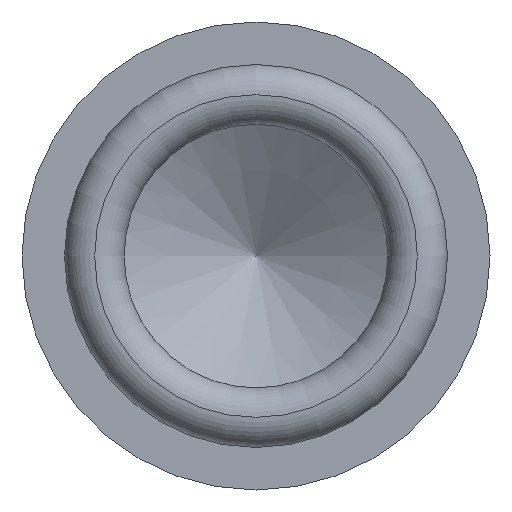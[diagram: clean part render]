
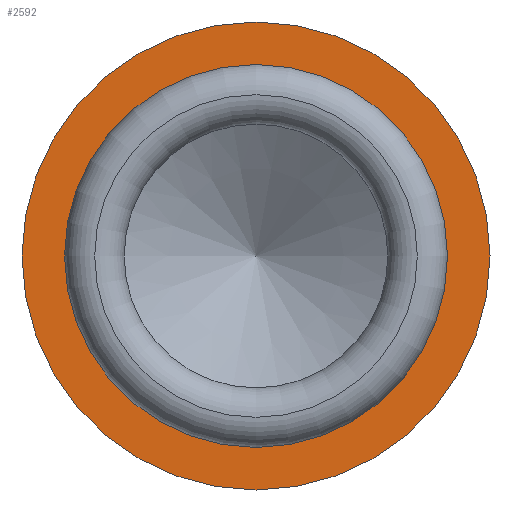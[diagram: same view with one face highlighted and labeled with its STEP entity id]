
A CAD part, left-side view. The second image highlights one B-rep face of the part: STEP entity #2592.
In plain terms, the highlighted planar face has unit normal (-1, 0, 0).
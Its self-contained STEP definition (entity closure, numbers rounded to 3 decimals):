
#591=PLANE($,#2894);
#635=FACE_BOUND($,#973,.T.);
#800=FACE_OUTER_BOUND($,#972,.T.);
#972=EDGE_LOOP($,(#2368));
#973=EDGE_LOOP($,(#2369));
#991=CIRCLE($,#2611,1.143);
#1120=CIRCLE($,#2895,1.397);
#1130=VERTEX_POINT($,#3758);
#1334=VERTEX_POINT($,#4471);
#1344=EDGE_CURVE($,#1130,#1130,#991,.T.);
#1698=EDGE_CURVE($,#1334,#1334,#1120,.T.);
#2368=ORIENTED_EDGE($,*,*,#1698,.F.);
#2369=ORIENTED_EDGE($,*,*,#1344,.T.);
#2592=ADVANCED_FACE($,(#800,#635),#591,.T.);
#2611=AXIS2_PLACEMENT_3D($,#3759,#2926,#2927);
#2894=AXIS2_PLACEMENT_3D($,#4470,#3717,#3718);
#2895=AXIS2_PLACEMENT_3D($,#4472,#3719,#3720);
#2926=DIRECTION('center_axis',(1.,0.,0.));
#2927=DIRECTION('ref_axis',(0.,1.,0.));
#3717=DIRECTION('center_axis',(-1.,0.,0.));
#3718=DIRECTION('ref_axis',(0.,0.,1.));
#3719=DIRECTION('center_axis',(1.,0.,0.));
#3720=DIRECTION('ref_axis',(0.,1.,0.));
#3758=CARTESIAN_POINT('',(0.428,1.143,0.));
#3759=CARTESIAN_POINT('Origin',(0.428,0.,
0.));
#4470=CARTESIAN_POINT('Origin',(0.428,1.27,0.));
#4471=CARTESIAN_POINT('',(0.428,1.397,0.));
#4472=CARTESIAN_POINT('Origin',(0.428,0.,
0.));
